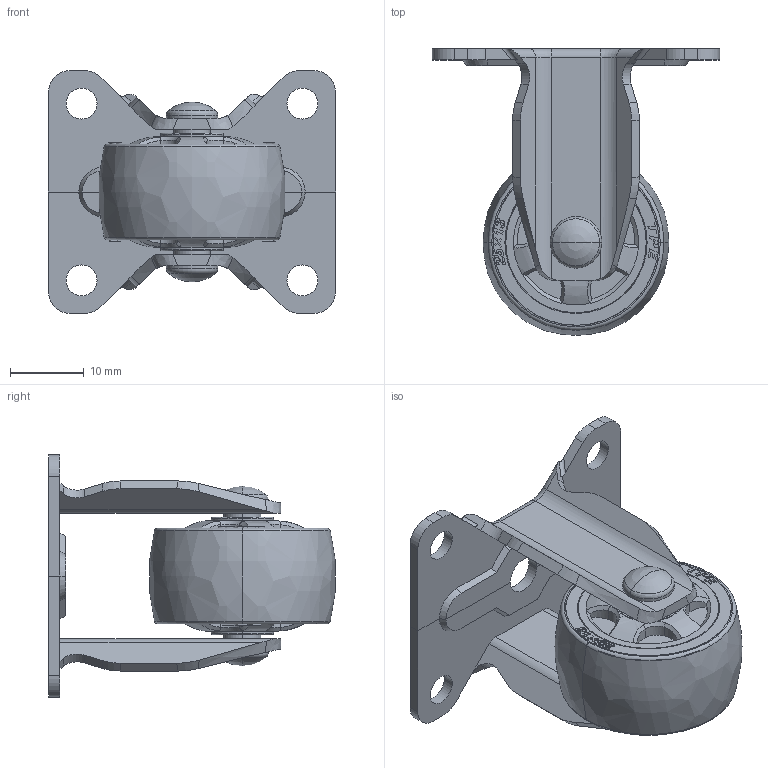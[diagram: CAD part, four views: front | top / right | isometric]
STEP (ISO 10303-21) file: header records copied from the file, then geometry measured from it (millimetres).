
FILE_DESCRIPTION((''),'2;1');
FILE_NAME('810-GD_ASM','2021-06-13T',('Lenovo'),(''),'PRO/ENGINEER BY PARAMETRIC TECHNOLOGY CORPORATION, 2010280','PRO/ENGINEER BY PARAMETRIC TECHNOLOGY CORPORATION, 2010280','');
FILE_SCHEMA(('CONFIG_CONTROL_DESIGN'));
Length unit declared in the file: millimetre
Products named in the file (7): SZ0110-GDZJ; 810-LZMD; 08-1-25-TPR-W__; T0110; 01125TEL; 0110-3TPE_ASM; 810-GD_ASM
Assembly tree (6 placements, depth 3):
  810-GD_ASM
    SZ0110-GDZJ
    810-LZMD
    0110-3TPE_ASM
      08-1-25-TPR-W__
      T0110
      01125TEL
Bounding box: 39 x 38.91 x 33 mm (x, y, z)
Volume: 9299.4 mm3; surface area: 14092.7 mm2
Topology: 5 solids, 8 shells, 749 faces, 2023 edges, 1302 vertices
Faces by surface type: plane 317, cylinder 156, extrusion 128, bspline 100, torus 26, cone 18, sphere 4
Entity records: 28189 total; most frequent: CARTESIAN_POINT 10309, ORIENTED_EDGE 4030, DIRECTION 3063, EDGE_CURVE 2019, VERTEX_POINT 1302, VECTOR 1181, LINE 1053, AXIS2_PLACEMENT_3D 941
